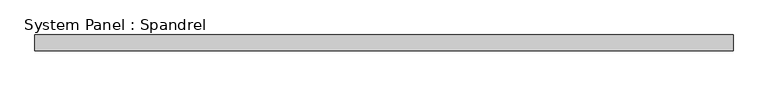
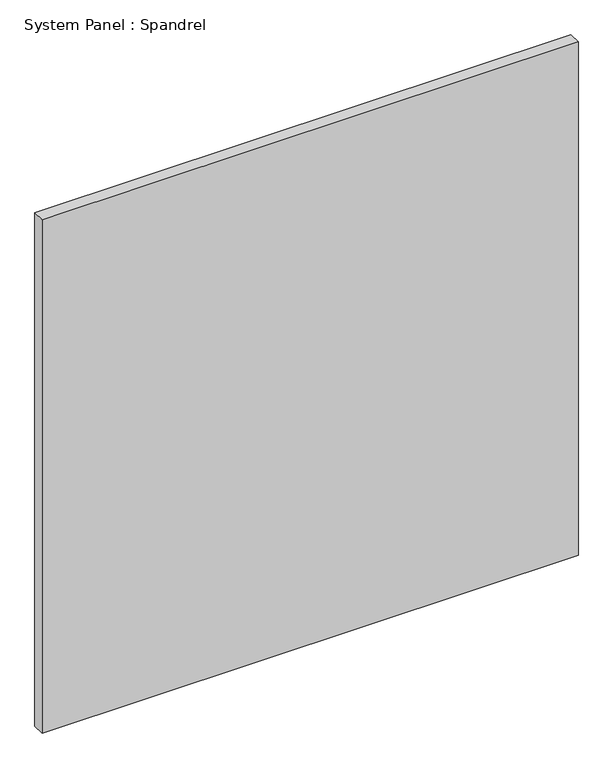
"""IFC4 building model written with IfcOpenShell, lengths in millimetres: plate geometry, System Panel : Spandrel."""

from ifc_helpers import new_model, si_unit, origin, origin_with_axes, place, context, project, spatial, polyline, outline, extrude, source, transform, mapped, element, save


def system_panel_spandrel_9b3947d9(model_context):
    return source(origin(), model_context, "Body", "SweptSolid", [
        extrude(outline(polyline([(543.6499999, 0.0), (-543.6499999, 0.0), (-543.6499999, 25.0), (543.6499999, 25.0), (543.6499999, 0.0)])), origin_with_axes(), (0.0, 0.0, 1.0), 1100.0),
    ])


if __name__ == "__main__":
    model = new_model("IFC4")
    model_context = context("Model", 3, world=origin())
    ifc_project = project(units=[si_unit("LENGTHUNIT", "METRE", prefix="MILLI")], contexts=[model_context])
    site = spatial("IfcSite", under=ifc_project)
    building = spatial("IfcBuilding", under=site)
    placement = place(None, origin())
    system_panel_spandrel_shape = system_panel_spandrel_9b3947d9(model_context)
    element("IfcPlate", 1, ObjectType="System Panel : Spandrel", at=placement, inside=building, context=model_context, shape_type="MappedRepresentation", body=[
        mapped(system_panel_spandrel_shape, transform((0.0, 0.0, 0.0), x_axis=(1.0, 0.0, 0.0), y_axis=(0.0, 1.0, 0.0), z_axis=(0.0, 0.0, 1.0))),
    ])
    save(model, "model.ifc")
